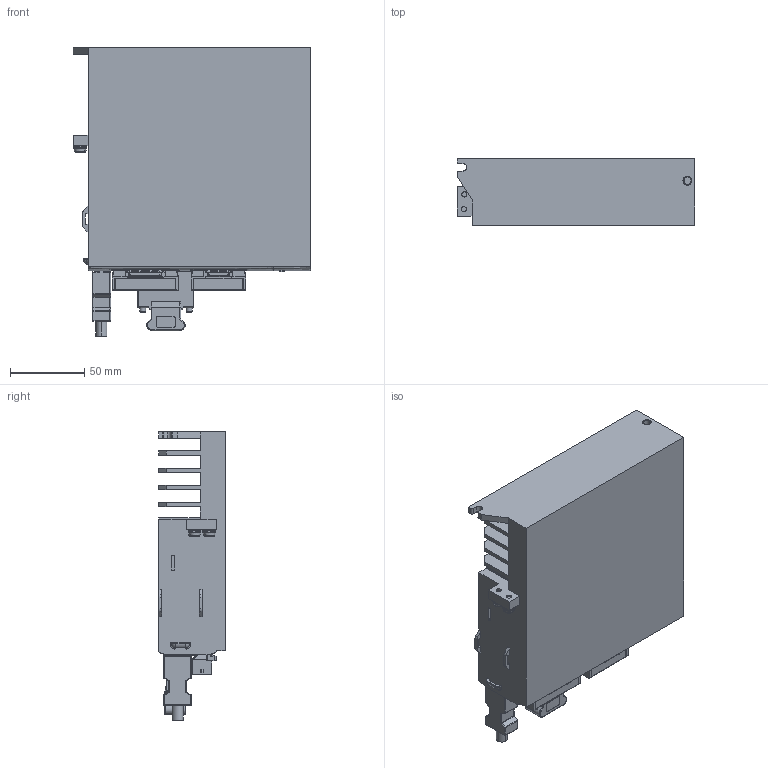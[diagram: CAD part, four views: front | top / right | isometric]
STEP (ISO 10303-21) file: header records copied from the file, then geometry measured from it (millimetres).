
FILE_DESCRIPTION (( 'STEP AP214' ), '1' );
FILE_NAME ('Ω6s-AN-A型-通用&基础-整机外形图.STEP', '2023-04-19T03:37:36', ( '' ), ( '' ), 'SwSTEP 2.0', 'SolidWorks 2014', '' );
FILE_SCHEMA (( 'AUTOMOTIVE_DESIGN' ));
Length unit declared in the file: millimetre
Products named in the file (20): jack-t3507506; M4-H8; jack-t3507505; 400WK; plug-t3507505; 26pinMDRplug; STOM2X04P; plug-t3507506; 次6s-AN-A倰-籵蚚&價插-淕儂俋倛芞; JDZcoder
Assembly tree (10 placements, depth 2):
  jack-t3507506
  M4-H8
  plug-t3507505
  26pinMDRplug
  STOM2X04P
Bounding box: 160 x 45 x 194.2 mm (x, y, z)
Volume: 856377.5 mm3; surface area: 160389.4 mm2
Topology: 17 solids, 17 shells, 4144 faces, 11638 edges, 7528 vertices
Faces by surface type: plane 3190, cylinder 467, bspline 437, sphere 22, cone 16, torus 12
Entity records: 150102 total; most frequent: CARTESIAN_POINT 46868, ORIENTED_EDGE 23032, DIRECTION 18217, EDGE_CURVE 11516, VECTOR 9473, LINE 9473, VERTEX_POINT 7464, AXIS2_PLACEMENT_3D 4372
